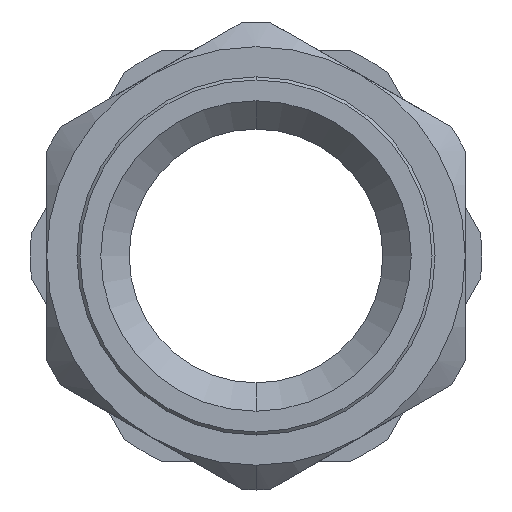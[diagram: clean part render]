
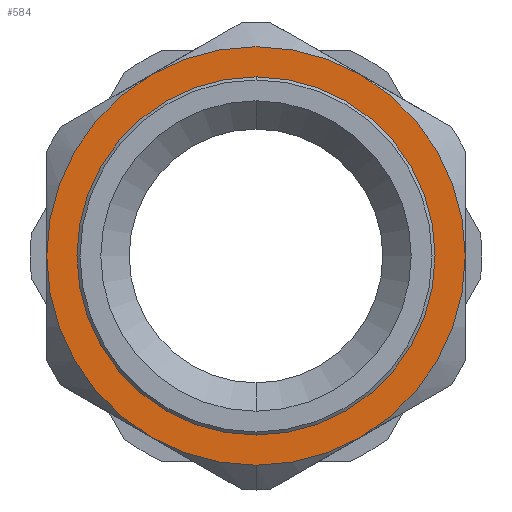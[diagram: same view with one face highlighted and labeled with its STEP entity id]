
A CAD part, front view. The second image highlights one B-rep face of the part: STEP entity #584.
In plain terms, the highlighted planar face has unit normal (0, -1, 0).
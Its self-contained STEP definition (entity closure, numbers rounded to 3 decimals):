
#71 = AXIS2_PLACEMENT_3D ( 'NONE', #1401, #1400, #1399 ) ;
#86 = FACE_BOUND ( 'NONE', #2306, .T. ) ;
#97 = AXIS2_PLACEMENT_3D ( 'NONE', #1392, #1391, #1390 ) ;
#110 = AXIS2_PLACEMENT_3D ( 'NONE', #1395, #1394, #1393 ) ;
#118 = AXIS2_PLACEMENT_3D ( 'NONE', #1410, #1409, #1408 ) ;
#152 = AXIS2_PLACEMENT_3D ( 'NONE', #1398, #1397, #1396 ) ;
#170 = AXIS2_PLACEMENT_3D ( 'NONE', #1156, #1056, #1055 ) ;
#189 = AXIS2_PLACEMENT_3D ( 'NONE', #1771, #1770, #1769 ) ;
#203 = AXIS2_PLACEMENT_3D ( 'NONE', #1404, #1403, #1402 ) ;
#258 = AXIS2_PLACEMENT_3D ( 'NONE', #1407, #1406, #1405 ) ;
#284 = FACE_OUTER_BOUND ( 'NONE', #2305, .T. ) ;
#316 = VERTEX_POINT ( 'NONE', #1505 ) ;
#335 = VERTEX_POINT ( 'NONE', #1547 ) ;
#336 = VERTEX_POINT ( 'NONE', #1546 ) ;
#337 = VERTEX_POINT ( 'NONE', #1545 ) ;
#338 = VERTEX_POINT ( 'NONE', #1544 ) ;
#453 = CIRCLE ( 'NONE', #170, 29.65 ) ;
#495 = CIRCLE ( 'NONE', #97, 34.65 ) ;
#496 = CIRCLE ( 'NONE', #110, 29.65 ) ;
#497 = CIRCLE ( 'NONE', #152, 34.65 ) ;
#498 = CIRCLE ( 'NONE', #71, 34.65 ) ;
#499 = CIRCLE ( 'NONE', #203, 34.65 ) ;
#500 = CIRCLE ( 'NONE', #258, 34.65 ) ;
#501 = CIRCLE ( 'NONE', #118, 34.65 ) ;
#528 = CIRCLE ( 'NONE', #1090, 34.65 ) ;
#545 = EDGE_CURVE ( 'NONE', #2210, #2213, #528, .T. ) ;
#584 = ADVANCED_FACE ( 'NONE', ( #86, #284 ), #1772, .F. ) ;
#640 = EDGE_CURVE ( 'NONE', #2213, #316, #501, .T. ) ;
#641 = EDGE_CURVE ( 'NONE', #335, #2210, #500, .T. ) ;
#642 = EDGE_CURVE ( 'NONE', #336, #335, #499, .T. ) ;
#643 = EDGE_CURVE ( 'NONE', #337, #336, #498, .T. ) ;
#644 = EDGE_CURVE ( 'NONE', #316, #338, #497, .T. ) ;
#645 = EDGE_CURVE ( 'NONE', #2203, #2181, #496, .T. ) ;
#646 = EDGE_CURVE ( 'NONE', #338, #337, #495, .T. ) ;
#725 = EDGE_CURVE ( 'NONE', #2181, #2203, #453, .T. ) ;
#817 = CARTESIAN_POINT ( 'NONE',  ( 17.325, 1., -30.008 ) ) ;
#820 = CARTESIAN_POINT ( 'NONE',  ( 0., 1., -34.65 ) ) ;
#827 = CARTESIAN_POINT ( 'NONE',  ( 0., 1., 29.65 ) ) ;
#849 = CARTESIAN_POINT ( 'NONE',  ( 0., 1., -29.65 ) ) ;
#1055 = DIRECTION ( 'NONE',  ( 0., 0., -1. ) ) ;
#1056 = DIRECTION ( 'NONE',  ( 0., -1., 0. ) ) ;
#1090 = AXIS2_PLACEMENT_3D ( 'NONE', #1929, #1928, #1927 ) ;
#1156 = CARTESIAN_POINT ( 'NONE',  ( 0., 1., 0. ) ) ;
#1390 = DIRECTION ( 'NONE',  ( 0., 0., -1. ) ) ;
#1391 = DIRECTION ( 'NONE',  ( 0., -1., 0. ) ) ;
#1392 = CARTESIAN_POINT ( 'NONE',  ( 0., 1., 0. ) ) ;
#1393 = DIRECTION ( 'NONE',  ( 0., 0., -1. ) ) ;
#1394 = DIRECTION ( 'NONE',  ( 0., -1., 0. ) ) ;
#1395 = CARTESIAN_POINT ( 'NONE',  ( 0., 1., 0. ) ) ;
#1396 = DIRECTION ( 'NONE',  ( 0., 0., -1. ) ) ;
#1397 = DIRECTION ( 'NONE',  ( 0., -1., 0. ) ) ;
#1398 = CARTESIAN_POINT ( 'NONE',  ( 0., 1., 0. ) ) ;
#1399 = DIRECTION ( 'NONE',  ( 0., 0., -1. ) ) ;
#1400 = DIRECTION ( 'NONE',  ( 0., -1., 0. ) ) ;
#1401 = CARTESIAN_POINT ( 'NONE',  ( 0., 1., 0. ) ) ;
#1402 = DIRECTION ( 'NONE',  ( 0., 0., -1. ) ) ;
#1403 = DIRECTION ( 'NONE',  ( 0., -1., 0. ) ) ;
#1404 = CARTESIAN_POINT ( 'NONE',  ( 0., 1., 0. ) ) ;
#1405 = DIRECTION ( 'NONE',  ( 0., 0., -1. ) ) ;
#1406 = DIRECTION ( 'NONE',  ( 0., -1., 0. ) ) ;
#1407 = CARTESIAN_POINT ( 'NONE',  ( 0., 1., 0. ) ) ;
#1408 = DIRECTION ( 'NONE',  ( 0., 0., -1. ) ) ;
#1409 = DIRECTION ( 'NONE',  ( 0., -1., 0. ) ) ;
#1410 = CARTESIAN_POINT ( 'NONE',  ( 0., 1., 0. ) ) ;
#1443 = ORIENTED_EDGE ( 'NONE', *, *, #644, .T. ) ;
#1452 = ORIENTED_EDGE ( 'NONE', *, *, #641, .T. ) ;
#1463 = ORIENTED_EDGE ( 'NONE', *, *, #545, .T. ) ;
#1505 = CARTESIAN_POINT ( 'NONE',  ( 34.65, 1., 0. ) ) ;
#1544 = CARTESIAN_POINT ( 'NONE',  ( 17.325, 1., 30.008 ) ) ;
#1545 = CARTESIAN_POINT ( 'NONE',  ( -17.325, 1., 30.008 ) ) ;
#1546 = CARTESIAN_POINT ( 'NONE',  ( -34.65, 1., 0. ) ) ;
#1547 = CARTESIAN_POINT ( 'NONE',  ( -17.325, 1., -30.008 ) ) ;
#1683 = ORIENTED_EDGE ( 'NONE', *, *, #642, .T. ) ;
#1684 = ORIENTED_EDGE ( 'NONE', *, *, #645, .F. ) ;
#1692 = ORIENTED_EDGE ( 'NONE', *, *, #725, .F. ) ;
#1769 = DIRECTION ( 'NONE',  ( 0., 0., 1. ) ) ;
#1770 = DIRECTION ( 'NONE',  ( 0., 1., 0. ) ) ;
#1771 = CARTESIAN_POINT ( 'NONE',  ( -38.75, 1., 0. ) ) ;
#1772 = PLANE ( 'NONE',  #189 ) ;
#1778 = ORIENTED_EDGE ( 'NONE', *, *, #646, .T. ) ;
#1927 = DIRECTION ( 'NONE',  ( 0., 0., -1. ) ) ;
#1928 = DIRECTION ( 'NONE',  ( 0., -1., 0. ) ) ;
#1929 = CARTESIAN_POINT ( 'NONE',  ( 0., 1., 0. ) ) ;
#2045 = ORIENTED_EDGE ( 'NONE', *, *, #640, .T. ) ;
#2047 = ORIENTED_EDGE ( 'NONE', *, *, #643, .T. ) ;
#2181 = VERTEX_POINT ( 'NONE', #849 ) ;
#2203 = VERTEX_POINT ( 'NONE', #827 ) ;
#2210 = VERTEX_POINT ( 'NONE', #820 ) ;
#2213 = VERTEX_POINT ( 'NONE', #817 ) ;
#2305 = EDGE_LOOP ( 'NONE', ( #1443, #1778, #2047, #1683, #1452, #1463, #2045 ) ) ;
#2306 = EDGE_LOOP ( 'NONE', ( #1692, #1684 ) ) ;
